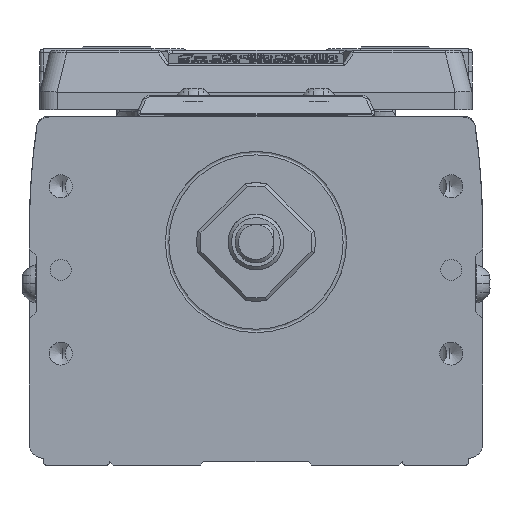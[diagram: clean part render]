
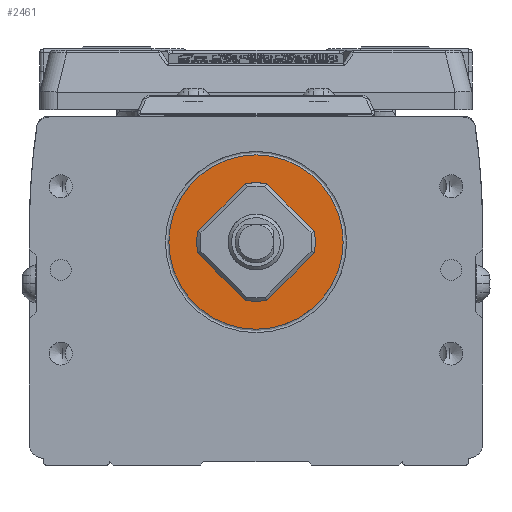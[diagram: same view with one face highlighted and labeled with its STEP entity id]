
A CAD part, left-side view. The second image highlights one B-rep face of the part: STEP entity #2461.
In plain terms, the highlighted planar face has unit normal (-1, 0, 0) as drawn and (0, 0, 1) by its records, which use the part's own axes.
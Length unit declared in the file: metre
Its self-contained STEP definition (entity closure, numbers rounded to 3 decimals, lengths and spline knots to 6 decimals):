
#2461=ADVANCED_FACE('',(#5703,#5704),#5705,.T.);
#5703=FACE_OUTER_BOUND('',#12458,.T.);
#5704=FACE_BOUND('',#12459,.T.);
#5705=PLANE('',#12460);
#12458=EDGE_LOOP('',(#19578));
#12459=EDGE_LOOP('',(#19579));
#12460=AXIS2_PLACEMENT_3D('',#19580,#19581,#19582);
#19578=ORIENTED_EDGE('',*,*,#30957,.T.);
#19579=ORIENTED_EDGE('',*,*,#29951,.F.);
#19580=CARTESIAN_POINT('',(0.000036,-0.0065,0.02));
#19581=DIRECTION('',(0.0,0.0,1.0));
#19582=DIRECTION('',(1.0,0.0,0.0));
#29951=EDGE_CURVE('',#34789,#34789,#34790,.T.);
#30957=EDGE_CURVE('',#36518,#36518,#36519,.T.);
#34789=VERTEX_POINT('',#41894);
#34790=CIRCLE('',#41895,0.004);
#36518=VERTEX_POINT('',#44347);
#36519=CIRCLE('',#44348,0.0125);
#41894=CARTESIAN_POINT('',(0.004,0.0,0.02));
#41895=AXIS2_PLACEMENT_3D('',#52168,#52169,#52170);
#44347=CARTESIAN_POINT('',(-0.0125,0.,0.02));
#44348=AXIS2_PLACEMENT_3D('',#53429,#53430,#53431);
#52168=CARTESIAN_POINT('',(0.0,0.0,0.02));
#52169=DIRECTION('',(0.0,0.0,1.0));
#52170=DIRECTION('',(-1.0,0.0,0.0));
#53429=CARTESIAN_POINT('',(0.0,0.,0.02));
#53430=DIRECTION('',(0.0,0.0,1.0));
#53431=DIRECTION('',(1.0,0.0,0.0));
